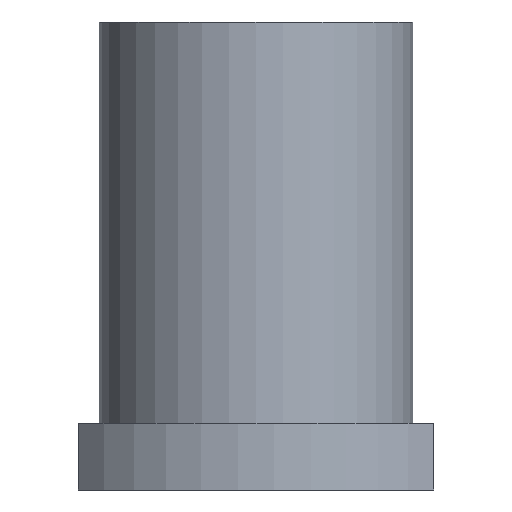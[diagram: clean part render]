
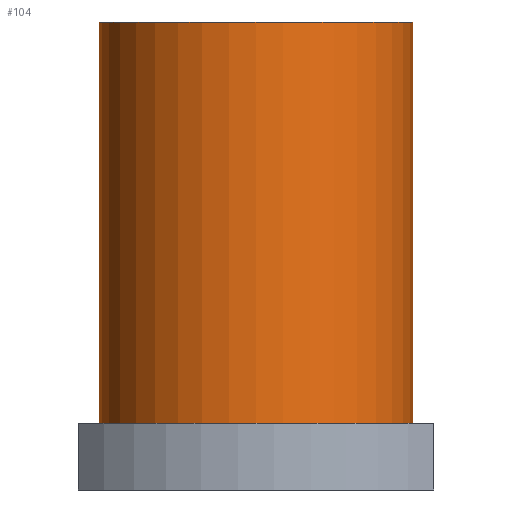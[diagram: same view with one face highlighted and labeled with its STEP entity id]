
A CAD part, front view. The second image highlights one B-rep face of the part: STEP entity #104.
In plain terms, the highlighted cylindrical face has radius 37.5 mm (diameter 75 mm), a full revolution.
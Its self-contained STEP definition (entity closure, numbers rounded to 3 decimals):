
#104=ADVANCED_FACE('',(#138,#139),#124,.T.);
#124=CYLINDRICAL_SURFACE('',#435,37.5);
#138=FACE_BOUND('',#195,.T.);
#139=FACE_BOUND('',#196,.T.);
#195=EDGE_LOOP('',(#268));
#196=EDGE_LOOP('',(#269));
#268=ORIENTED_EDGE('',*,*,#372,.F.);
#269=ORIENTED_EDGE('',*,*,#373,.T.);
#340=VERTEX_POINT('',#648);
#341=VERTEX_POINT('',#650);
#372=EDGE_CURVE('',#340,#340,#405,.T.);
#373=EDGE_CURVE('',#341,#341,#406,.T.);
#405=CIRCLE('',#433,37.5);
#406=CIRCLE('',#434,37.5);
#433=AXIS2_PLACEMENT_3D('',#647,#486,#487);
#434=AXIS2_PLACEMENT_3D('',#649,#488,#489);
#435=AXIS2_PLACEMENT_3D('',#651,#490,#491);
#486=DIRECTION('',(0.,0.,-1.));
#487=DIRECTION('',(1.,0.,0.));
#488=DIRECTION('',(0.,0.,-1.));
#489=DIRECTION('',(1.,0.,0.));
#490=DIRECTION('',(0.,0.,-1.));
#491=DIRECTION('',(-1.,0.,0.));
#647=CARTESIAN_POINT('',(0.,0.,16.));
#648=CARTESIAN_POINT('',(37.5,0.,16.));
#649=CARTESIAN_POINT('',(0.,0.,112.));
#650=CARTESIAN_POINT('',(37.5,0.,112.));
#651=CARTESIAN_POINT('',(0.,0.,112.));
